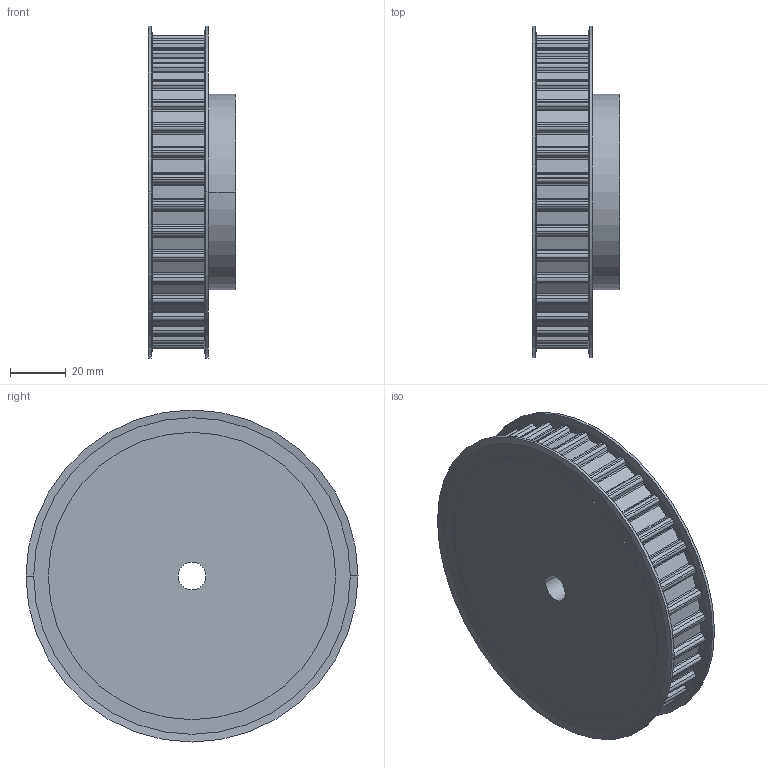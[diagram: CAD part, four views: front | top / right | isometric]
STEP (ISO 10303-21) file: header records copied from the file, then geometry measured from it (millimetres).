
FILE_DESCRIPTION( ( '' ), '1' );
FILE_NAME( 'C:/Users/Stangenbergd/Documents/CAD_Step/1/16823600.stp', '2021-10-19T09:44:21', ( '' ), ( '' ), ' ', ' ', ' ' );
FILE_SCHEMA( ( 'CONFIG_CONTROL_DESIGN' ) );
Length unit declared in the file: millimetre
Products named in the file (1): 1
Bounding box: 31.24 x 119 x 119 mm (x, y, z)
Volume: 236467.4 mm3; surface area: 37741.8 mm2
Topology: 1 solids, 1 shells, 315 faces, 916 edges, 608 vertices
Faces by surface type: cylinder 192, plane 115, cone 8
Entity records: 10606 total; most frequent: DIRECTION 1940, CARTESIAN_POINT 1840, ORIENTED_EDGE 1832, EDGE_CURVE 916, AXIS2_PLACEMENT_3D 708, VERTEX_POINT 608, LINE 524, VECTOR 524
